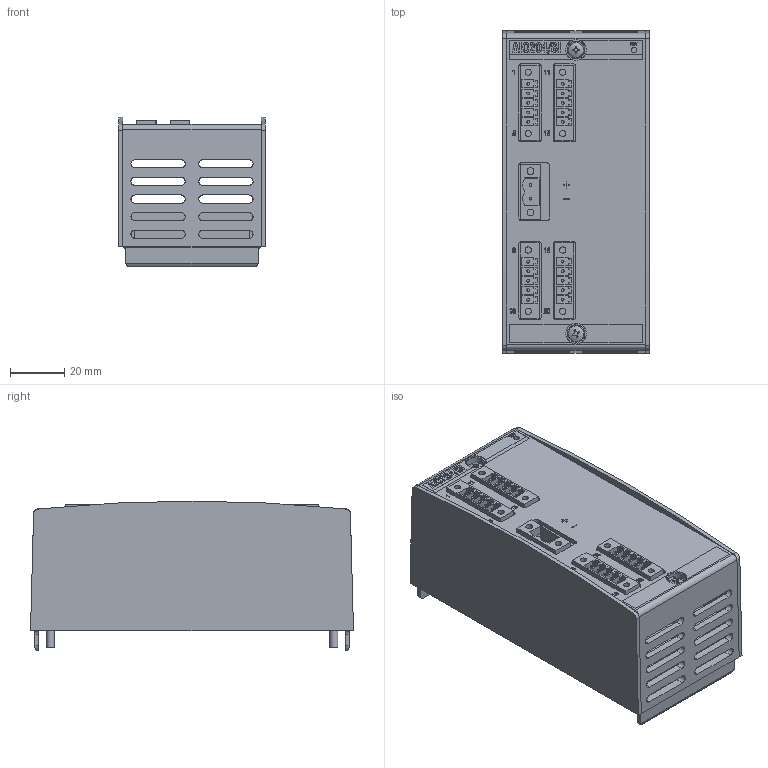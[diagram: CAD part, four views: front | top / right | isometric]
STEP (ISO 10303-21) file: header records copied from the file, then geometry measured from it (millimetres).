
FILE_DESCRIPTION(/* description */ ('AIO204/SI'),/* implementation_level */ '2;1');
FILE_NAME(/* name */ 'M:\STEP\M0017171008.stp',/* time_stamp */ '2019-02-11T13:13:29+01:00',/* author */ ('schwendm'),/* organization */ ('2019 Bachmann electronic GmbH'),/* preprocessor_version */ 'ST-DEVELOPER v15.2',/* originating_system */ 'Autodesk Inventor 2014',/* authorisation */ '-');
FILE_SCHEMA (('AUTOMOTIVE_DESIGN { 1 0 10303 214 3 1 1 }'));
Length unit declared in the file: millimetre
Products named in the file (1): M0017171008
Bounding box: 54 x 119 x 55.2 mm (x, y, z)
Volume: 66581.2 mm3; surface area: 81127.3 mm2
Topology: 25 solids, 25 shells, 1237 faces, 3375 edges, 2248 vertices
Faces by surface type: plane 783, cylinder 258, bspline 188, cone 6, sphere 2
Full cylindrical faces by diameter (mm): 1 x22, 2.1 x2, 2.3 x8, 2.46 x4, 2.5 x2, 3 x2, 3.5 x2, 6.6 x2, 7.6 x2
Entity records: 40888 total; most frequent: CARTESIAN_POINT 9812, ORIENTED_EDGE 6602, DIRECTION 5329, EDGE_CURVE 3301, LINE 2263, VECTOR 2263, VERTEX_POINT 2228, AXIS2_PLACEMENT_3D 1533
